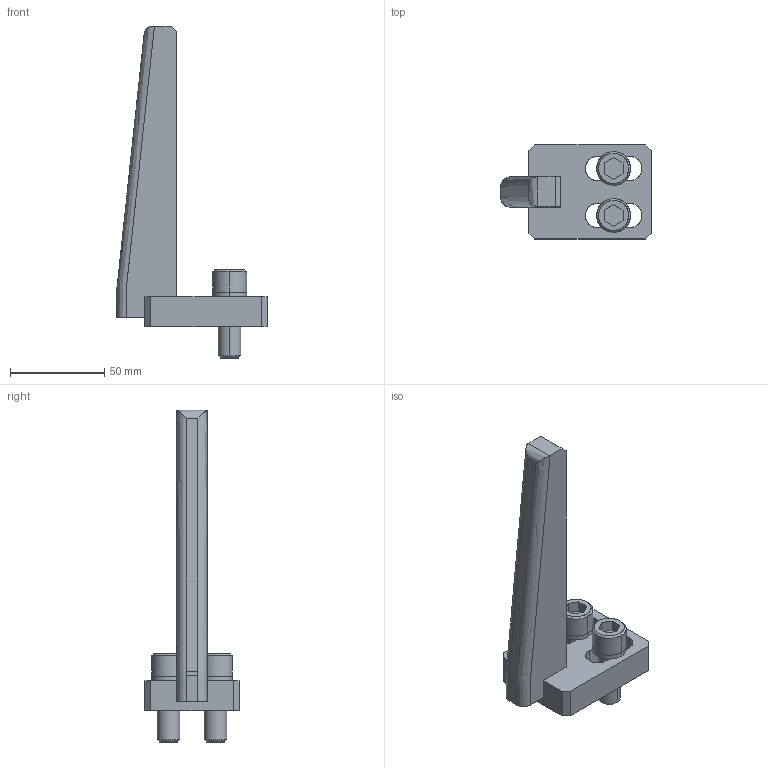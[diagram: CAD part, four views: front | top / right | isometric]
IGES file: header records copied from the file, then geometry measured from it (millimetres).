
Global section: file name: E:\UnigraphicsGraphicData\MISUMI_PRESS-PARTS\IGES\3d_ngga-160-20-15_01477_r00.igs; native system: NX V5.0; preprocessor: UGS NX IGES V5.0; author: MISUMI; date: 20110105.162028; units: millimetre
Bounding box: 80 x 50 x 176.5 mm (x, y, z)
Surface area: 30944.2 mm2 (no closed solid volume)
Topology: 0 solids, 0 shells, 103 faces, 662 edges, 662 vertices
Faces by surface type: bspline 103
